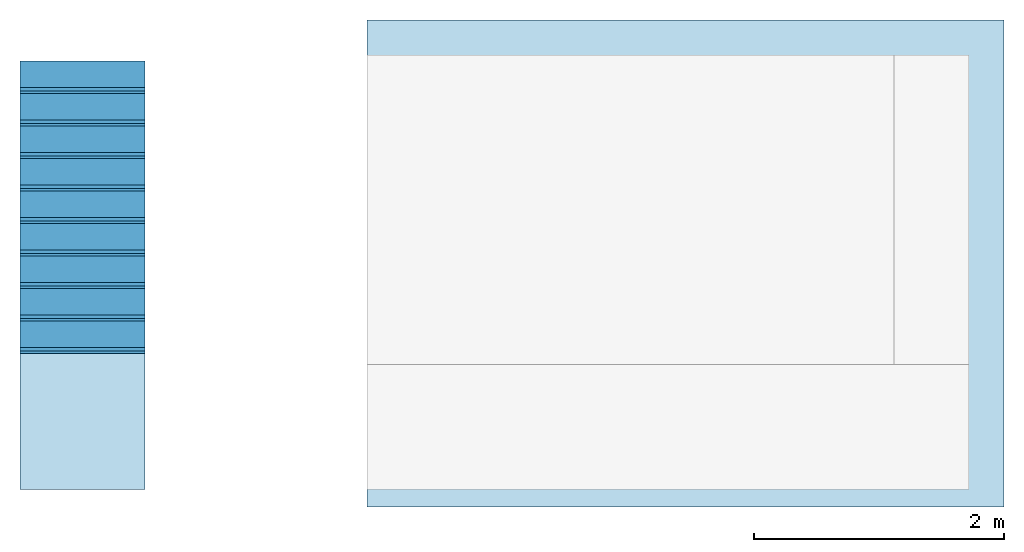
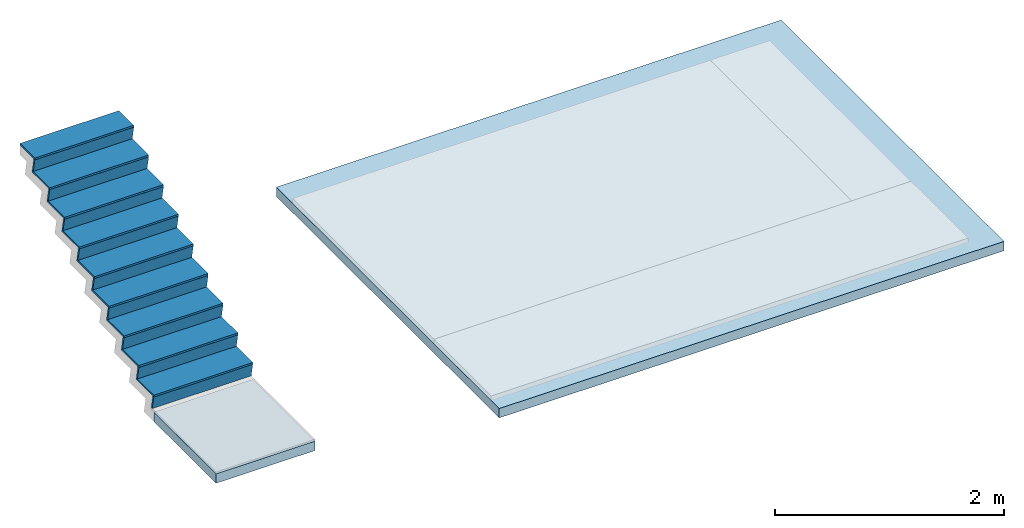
# One storey, part 1 of 4: 18 members, 2 slabs, 1 element without a shape of its own.
"""IFC2X3 building model written with IfcOpenShell, lengths in millimetres."""

from ifc_helpers import new_model, entity, si_unit, converted_unit, derived_unit, money_unit, direction, frame, origin_with_axes, place, context, subcontext, project, spatial, polyline, outline, extrude, faceted_brep, material, layer, layer_set, layer_usage, type_object, element, aggregate, save


model = new_model("IFC2X3")

# Units and contexts
model_context = context("Model", 3, precision=0.01, world=origin_with_axes(), true_north=direction((0.293984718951, 0.955810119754)))
body_context = subcontext(model_context, "Body", "Model", "MODEL_VIEW")
ifc_project = project(units=[si_unit("LENGTHUNIT", "METRE", prefix="MILLI"), si_unit("AREAUNIT", "SQUARE_METRE"), si_unit("VOLUMEUNIT", "CUBIC_METRE"), converted_unit("PLANEANGLEUNIT", "DEGREE", entity("IfcPlaneAngleMeasure", 0.0174532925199), si_unit("PLANEANGLEUNIT", "RADIAN"), dimensions=[0, 0, 0, 0, 0, 0, 0]), si_unit("SOLIDANGLEUNIT", "STERADIAN"), money_unit("USD"), converted_unit("TIMEUNIT", "Year", entity("IfcTimeMeasure", 31556926.0), si_unit("TIMEUNIT", "SECOND"), dimensions=[0, 0, 1, 0, 0, 0, 0]), si_unit("MASSUNIT", "GRAM", prefix="KILO"), si_unit("THERMODYNAMICTEMPERATUREUNIT", "DEGREE_CELSIUS"), si_unit("LUMINOUSINTENSITYUNIT", "LUMEN"), si_unit("ENERGYUNIT", "JOULE", prefix="MEGA"), derived_unit("THERMALCONDUCTANCEUNIT", [(si_unit("POWERUNIT", "WATT"), 1), (si_unit("LENGTHUNIT", "METRE"), -1), (si_unit("THERMODYNAMICTEMPERATUREUNIT", "KELVIN"), -1)]), derived_unit("SPECIFICHEATCAPACITYUNIT", [(si_unit("ENERGYUNIT", "JOULE"), 1), (si_unit("MASSUNIT", "GRAM", prefix="KILO"), -1), (si_unit("THERMODYNAMICTEMPERATUREUNIT", "KELVIN"), -1)]), derived_unit("MASSDENSITYUNIT", [(si_unit("MASSUNIT", "GRAM", prefix="KILO"), 1), (si_unit("VOLUMEUNIT", "CUBIC_METRE"), -1)])], contexts=[model_context])

# Site, building, storey
site_placement = place(None, origin_with_axes())
site = spatial("IfcSite", under=ifc_project, at=site_placement, Name="Local", CompositionType="ELEMENT")
building_placement = place(site_placement, origin_with_axes())
building = spatial("IfcBuilding", under=site, at=building_placement, Name="Construção", CompositionType="ELEMENT")
storey_placement = place(building_placement, frame((0.0, 0.0, 1300.0), z_axis=(0.0, 0.0, 1.0), x_axis=(1.0, 0.0, 0.0)))
storey = spatial("IfcBuildingStorey", under=building, at=storey_placement, Name="Pavimento Intermediário", CompositionType="ELEMENT", Elevation=1300.0)

# Stair, members
stair_placement = place(storey_placement, frame((13699.6450727, 3490.63219788, 210.0), z_axis=(0.0, 0.0, 1.0), x_axis=(1.0, 0.0, 0.0)))
stair = element("IfcStair", 1, at=stair_placement, inside=storey, Name="Escada", ShapeType="NOTDEFINED")
ifc_material_1 = material(Name="Concreto - Contra Piso")
member_type = type_object("IfcMemberType", Name="IfcMember", PredefinedType="NOTDEFINED")
member_1_placement = place(stair_placement, frame((-500.0, 1090.0, 138.888888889), z_axis=(0.0, 0.0, 1.0), x_axis=(1.0, 0.0, 0.0)))
member_1 = element("IfcMember", 2, at=member_1_placement, type_object=member_type, material=ifc_material_1, Name="RISER-227", context=body_context, shape_type="Brep", body=[
    faceted_brep([(500.0, 0.0, 0.0), (500.0, 20.3743338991, 0.0), (-500.0, 20.3743338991, 0.0), (-500.0, 0.0, 0.0), (500.0, 26.997265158, -138.888888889), (500.0, 47.3715990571, -138.888888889), (-500.0, 47.3715990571, -138.888888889), (-500.0, 26.997265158, -138.888888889)], [[[0, 1, 2, 3]], [[0, 4, 5, 1]], [[1, 5, 6, 2]], [[3, 2, 6, 7]], [[4, 0, 3, 7]], [[5, 4, 7, 6]]]),
])
member_2_placement = place(stair_placement, frame((-500.0, 1350.22054585, 297.777777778), z_axis=(0.0, 0.0, 1.0), x_axis=(1.0, 0.0, 0.0)))
member_2 = element("IfcMember", 3, at=member_2_placement, type_object=member_type, material=ifc_material_1, Name="RISER-228", context=body_context, shape_type="Brep", body=[
    faceted_brep([(500.0, 0.0, 0.0), (500.0, 20.3743338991, 0.0), (-500.0, 20.3743338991, 0.0), (-500.0, 0.0, 0.0), (500.0, 26.997265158, -138.888888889), (500.0, 47.3715990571, -138.888888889), (-500.0, 47.3715990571, -138.888888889), (-500.0, 26.997265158, -138.888888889)], [[[0, 1, 2, 3]], [[0, 4, 5, 1]], [[1, 5, 6, 2]], [[3, 2, 6, 7]], [[4, 0, 3, 7]], [[5, 4, 7, 6]]]),
])
member_3_placement = place(stair_placement, frame((-500.0, 1610.4410917, 456.666666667), z_axis=(0.0, 0.0, 1.0), x_axis=(1.0, 0.0, 0.0)))
member_3 = element("IfcMember", 4, at=member_3_placement, type_object=member_type, material=ifc_material_1, Name="RISER-229", context=body_context, shape_type="Brep", body=[
    faceted_brep([(500.0, 0.0, 0.0), (500.0, 20.3743338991, 0.0), (-500.0, 20.3743338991, 0.0), (-500.0, 0.0, 0.0), (500.0, 26.997265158, -138.888888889), (500.0, 47.3715990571, -138.888888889), (-500.0, 47.3715990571, -138.888888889), (-500.0, 26.997265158, -138.888888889)], [[[0, 1, 2, 3]], [[0, 4, 5, 1]], [[1, 5, 6, 2]], [[3, 2, 6, 7]], [[4, 0, 3, 7]], [[5, 4, 7, 6]]]),
])
member_4_placement = place(stair_placement, frame((-500.0, 1870.66163755, 615.555555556), z_axis=(0.0, 0.0, 1.0), x_axis=(1.0, 0.0, 0.0)))
member_4 = element("IfcMember", 5, at=member_4_placement, type_object=member_type, material=ifc_material_1, Name="RISER-230", context=body_context, shape_type="Brep", body=[
    faceted_brep([(500.0, 0.0, 0.0), (500.0, 20.3743338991, 0.0), (-500.0, 20.3743338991, 0.0), (-500.0, 0.0, 0.0), (500.0, 26.997265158, -138.888888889), (500.0, 47.3715990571, -138.888888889), (-500.0, 47.3715990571, -138.888888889), (-500.0, 26.997265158, -138.888888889)], [[[0, 1, 2, 3]], [[0, 4, 5, 1]], [[1, 5, 6, 2]], [[3, 2, 6, 7]], [[4, 0, 3, 7]], [[5, 4, 7, 6]]]),
])
member_5_placement = place(stair_placement, frame((-500.0, 2130.8821834, 774.444444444), z_axis=(0.0, 0.0, 1.0), x_axis=(1.0, 0.0, 0.0)))
member_5 = element("IfcMember", 6, at=member_5_placement, type_object=member_type, material=ifc_material_1, Name="RISER-231", context=body_context, shape_type="Brep", body=[
    faceted_brep([(500.0, 0.0, 0.0), (500.0, 20.3743338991, 0.0), (-500.0, 20.3743338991, 0.0), (-500.0, 0.0, 0.0), (500.0, 26.997265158, -138.888888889), (500.0, 47.3715990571, -138.888888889), (-500.0, 47.3715990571, -138.888888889), (-500.0, 26.997265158, -138.888888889)], [[[0, 1, 2, 3]], [[0, 4, 5, 1]], [[1, 5, 6, 2]], [[3, 2, 6, 7]], [[4, 0, 3, 7]], [[5, 4, 7, 6]]]),
])
member_6_placement = place(stair_placement, frame((-500.0, 2391.10272925, 933.333333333), z_axis=(0.0, 0.0, 1.0), x_axis=(1.0, 0.0, 0.0)))
member_6 = element("IfcMember", 7, at=member_6_placement, type_object=member_type, material=ifc_material_1, Name="RISER-232", context=body_context, shape_type="Brep", body=[
    faceted_brep([(500.0, 0.0, 0.0), (500.0, 20.3743338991, 0.0), (-500.0, 20.3743338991, 0.0), (-500.0, 0.0, 0.0), (500.0, 26.997265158, -138.888888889), (500.0, 47.3715990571, -138.888888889), (-500.0, 47.3715990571, -138.888888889), (-500.0, 26.997265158, -138.888888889)], [[[0, 1, 2, 3]], [[0, 4, 5, 1]], [[1, 5, 6, 2]], [[3, 2, 6, 7]], [[4, 0, 3, 7]], [[5, 4, 7, 6]]]),
])
member_7_placement = place(stair_placement, frame((-500.0, 2651.3232751, 1092.22222222), z_axis=(0.0, 0.0, 1.0), x_axis=(1.0, 0.0, 0.0)))
member_7 = element("IfcMember", 8, at=member_7_placement, type_object=member_type, material=ifc_material_1, Name="RISER-233", context=body_context, shape_type="Brep", body=[
    faceted_brep([(500.0, 0.0, 0.0), (500.0, 20.3743338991, 0.0), (-500.0, 20.3743338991, 0.0), (-500.0, 0.0, 0.0), (500.0, 26.997265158, -138.888888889), (500.0, 47.3715990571, -138.888888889), (-500.0, 47.3715990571, -138.888888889), (-500.0, 26.997265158, -138.888888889)], [[[0, 1, 2, 3]], [[0, 4, 5, 1]], [[1, 5, 6, 2]], [[3, 2, 6, 7]], [[4, 0, 3, 7]], [[5, 4, 7, 6]]]),
])
member_8_placement = place(stair_placement, frame((-500.0, 2911.54382095, 1251.11111111), z_axis=(0.0, 0.0, 1.0), x_axis=(1.0, 0.0, 0.0)))
member_8 = element("IfcMember", 9, at=member_8_placement, type_object=member_type, material=ifc_material_1, Name="RISER-234", context=body_context, shape_type="Brep", body=[
    faceted_brep([(500.0, 0.0, 0.0), (500.0, 20.3743338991, 0.0), (-500.0, 20.3743338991, 0.0), (-500.0, 0.0, 0.0), (500.0, 26.997265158, -138.888888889), (500.0, 47.3715990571, -138.888888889), (-500.0, 47.3715990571, -138.888888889), (-500.0, 26.997265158, -138.888888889)], [[[0, 1, 2, 3]], [[0, 4, 5, 1]], [[1, 5, 6, 2]], [[3, 2, 6, 7]], [[4, 0, 3, 7]], [[5, 4, 7, 6]]]),
])
member_9_placement = place(stair_placement, frame((-500.0, 3171.7643668, 1410.0), z_axis=(0.0, 0.0, 1.0), x_axis=(1.0, 0.0, 0.0)))
member_9 = element("IfcMember", 10, at=member_9_placement, type_object=member_type, material=ifc_material_1, Name="RISER-235", context=body_context, shape_type="Brep", body=[
    faceted_brep([(500.0, 0.0, 0.0), (500.0, 20.3743338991, 0.0), (-500.0, 20.3743338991, 0.0), (-500.0, 0.0, 0.0), (500.0, 26.997265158, -138.888888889), (500.0, 47.3715990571, -138.888888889), (-500.0, 47.3715990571, -138.888888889), (-500.0, 26.997265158, -138.888888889)], [[[0, 1, 2, 3]], [[0, 4, 5, 1]], [[1, 5, 6, 2]], [[3, 2, 6, 7]], [[4, 0, 3, 7]], [[5, 4, 7, 6]]]),
])
member_10_placement = place(stair_placement, frame((-500.0, 1090.0, 158.888888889), z_axis=(0.0, 0.0, 1.0), x_axis=(1.0, 0.0, 0.0)))
member_10 = element("IfcMember", 11, at=member_10_placement, type_object=member_type, material=ifc_material_1, Name="Piso Esc. - 196", context=body_context, shape_type="Brep", body=[
    faceted_brep([(-500.0, 311.479746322, -20.0), (0.0, 311.479746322, -20.0), (500.0, 311.479746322, -20.0), (500.0, 0.0, -20.0), (-500.0, 0.0, -20.0), (-500.0, 307.59214014, 0.0), (0.0, 307.59214014, 0.0), (500.0, 307.59214014, 0.0), (500.0, 0.0, 0.0), (-500.0, 0.0, 0.0)], [[[0, 1, 2, 3, 4]], [[1, 0, 5, 6, 7, 2]], [[7, 8, 3, 2]], [[8, 9, 4, 3]], [[5, 0, 4, 9]], [[6, 5, 9, 8, 7]]]),
])
member_11_placement = place(stair_placement, frame((-500.0, 1350.22054585, 317.777777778), z_axis=(0.0, 0.0, 1.0), x_axis=(1.0, 0.0, 0.0)))
member_11 = element("IfcMember", 12, at=member_11_placement, type_object=member_type, material=ifc_material_1, Name="Piso Esc. - 197", context=body_context, shape_type="Brep", body=[
    faceted_brep([(-500.0, 311.479746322, -20.0), (0.0, 311.479746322, -20.0), (500.0, 311.479746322, -20.0), (500.0, 0.0, -20.0), (-500.0, 0.0, -20.0), (-500.0, 307.59214014, 0.0), (0.0, 307.59214014, 0.0), (500.0, 307.59214014, 0.0), (500.0, 0.0, 0.0), (-500.0, 0.0, 0.0)], [[[0, 1, 2, 3, 4]], [[1, 0, 5, 6, 7, 2]], [[7, 8, 3, 2]], [[8, 9, 4, 3]], [[5, 0, 4, 9]], [[6, 5, 9, 8, 7]]]),
])
member_12_placement = place(stair_placement, frame((-500.0, 1610.4410917, 476.666666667), z_axis=(0.0, 0.0, 1.0), x_axis=(1.0, 0.0, 0.0)))
member_12 = element("IfcMember", 13, at=member_12_placement, type_object=member_type, material=ifc_material_1, Name="Piso Esc. - 198", context=body_context, shape_type="Brep", body=[
    faceted_brep([(-500.0, 311.479746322, -20.0), (0.0, 311.479746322, -20.0), (500.0, 311.479746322, -20.0), (500.0, 0.0, -20.0), (-500.0, 0.0, -20.0), (-500.0, 307.59214014, 0.0), (0.0, 307.59214014, 0.0), (500.0, 307.59214014, 0.0), (500.0, 0.0, 0.0), (-500.0, 0.0, 0.0)], [[[0, 1, 2, 3, 4]], [[1, 0, 5, 6, 7, 2]], [[7, 8, 3, 2]], [[8, 9, 4, 3]], [[5, 0, 4, 9]], [[6, 5, 9, 8, 7]]]),
])
member_13_placement = place(stair_placement, frame((-500.0, 1870.66163755, 635.555555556), z_axis=(0.0, 0.0, 1.0), x_axis=(1.0, 0.0, 0.0)))
member_13 = element("IfcMember", 14, at=member_13_placement, type_object=member_type, material=ifc_material_1, Name="Piso Esc. - 199", context=body_context, shape_type="Brep", body=[
    faceted_brep([(-500.0, 311.479746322, -20.0), (0.0, 311.479746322, -20.0), (500.0, 311.479746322, -20.0), (500.0, 0.0, -20.0), (-500.0, 0.0, -20.0), (-500.0, 307.59214014, 0.0), (0.0, 307.59214014, 0.0), (500.0, 307.59214014, 0.0), (500.0, 0.0, 0.0), (-500.0, 0.0, 0.0)], [[[0, 1, 2, 3, 4]], [[1, 0, 5, 6, 7, 2]], [[7, 8, 3, 2]], [[8, 9, 4, 3]], [[5, 0, 4, 9]], [[6, 5, 9, 8, 7]]]),
])
member_14_placement = place(stair_placement, frame((-500.0, 2130.8821834, 794.444444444), z_axis=(0.0, 0.0, 1.0), x_axis=(1.0, 0.0, 0.0)))
member_14 = element("IfcMember", 15, at=member_14_placement, type_object=member_type, material=ifc_material_1, Name="Piso Esc. - 200", context=body_context, shape_type="Brep", body=[
    faceted_brep([(-500.0, 311.479746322, -20.0), (0.0, 311.479746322, -20.0), (500.0, 311.479746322, -20.0), (500.0, 0.0, -20.0), (-500.0, 0.0, -20.0), (-500.0, 307.59214014, 0.0), (0.0, 307.59214014, 0.0), (500.0, 307.59214014, 0.0), (500.0, 0.0, 0.0), (-500.0, 0.0, 0.0)], [[[0, 1, 2, 3, 4]], [[1, 0, 5, 6, 7, 2]], [[7, 8, 3, 2]], [[8, 9, 4, 3]], [[5, 0, 4, 9]], [[6, 5, 9, 8, 7]]]),
])
member_15_placement = place(stair_placement, frame((-500.0, 2391.10272925, 953.333333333), z_axis=(0.0, 0.0, 1.0), x_axis=(1.0, 0.0, 0.0)))
member_15 = element("IfcMember", 16, at=member_15_placement, type_object=member_type, material=ifc_material_1, Name="Piso Esc. - 201", context=body_context, shape_type="Brep", body=[
    faceted_brep([(-500.0, 311.479746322, -20.0), (0.0, 311.479746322, -20.0), (500.0, 311.479746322, -20.0), (500.0, 0.0, -20.0), (-500.0, 0.0, -20.0), (-500.0, 307.59214014, 0.0), (0.0, 307.59214014, 0.0), (500.0, 307.59214014, 0.0), (500.0, 0.0, 0.0), (-500.0, 0.0, 0.0)], [[[0, 1, 2, 3, 4]], [[1, 0, 5, 6, 7, 2]], [[7, 8, 3, 2]], [[8, 9, 4, 3]], [[5, 0, 4, 9]], [[6, 5, 9, 8, 7]]]),
])
member_16_placement = place(stair_placement, frame((-500.0, 2651.3232751, 1112.22222222), z_axis=(0.0, 0.0, 1.0), x_axis=(1.0, 0.0, 0.0)))
member_16 = element("IfcMember", 17, at=member_16_placement, type_object=member_type, material=ifc_material_1, Name="Piso Esc. - 202", context=body_context, shape_type="Brep", body=[
    faceted_brep([(-500.0, 311.479746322, -20.0), (0.0, 311.479746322, -20.0), (500.0, 311.479746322, -20.0), (500.0, 0.0, -20.0), (-500.0, 0.0, -20.0), (-500.0, 307.59214014, 0.0), (0.0, 307.59214014, 0.0), (500.0, 307.59214014, 0.0), (500.0, 0.0, 0.0), (-500.0, 0.0, 0.0)], [[[0, 1, 2, 3, 4]], [[1, 0, 5, 6, 7, 2]], [[7, 8, 3, 2]], [[8, 9, 4, 3]], [[5, 0, 4, 9]], [[6, 5, 9, 8, 7]]]),
])
member_17_placement = place(stair_placement, frame((-500.0, 2911.54382095, 1271.11111111), z_axis=(0.0, 0.0, 1.0), x_axis=(1.0, 0.0, 0.0)))
member_17 = element("IfcMember", 18, at=member_17_placement, type_object=member_type, material=ifc_material_1, Name="Piso Esc. - 203", context=body_context, shape_type="Brep", body=[
    faceted_brep([(-500.0, 311.479746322, -20.0), (0.0, 311.479746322, -20.0), (500.0, 311.479746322, -20.0), (500.0, 0.0, -20.0), (-500.0, 0.0, -20.0), (-500.0, 307.59214014, 0.0), (0.0, 307.59214014, 0.0), (500.0, 307.59214014, 0.0), (500.0, 0.0, 0.0), (-500.0, 0.0, 0.0)], [[[0, 1, 2, 3, 4]], [[1, 0, 5, 6, 7, 2]], [[7, 8, 3, 2]], [[8, 9, 4, 3]], [[5, 0, 4, 9]], [[6, 5, 9, 8, 7]]]),
])
member_18_placement = place(stair_placement, frame((-500.0, 3171.7643668, 1430.0), z_axis=(0.0, 0.0, 1.0), x_axis=(1.0, 0.0, 0.0)))
member_18 = element("IfcMember", 19, at=member_18_placement, type_object=member_type, material=ifc_material_1, Name="Piso Esc. - 204", context=body_context, shape_type="Brep", body=[
    faceted_brep([(-500.0, 0.0, -20.0), (500.0, 0.0, -20.0), (500.0, 0.0, 0.0), (-500.0, 0.0, 0.0), (-500.0, 260.220545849, -20.0), (500.0, 260.220545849, -20.0), (500.0, 260.220545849, 0.0), (-500.0, 260.220545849, 0.0)], [[[0, 1, 2, 3]], [[0, 4, 5, 1]], [[1, 5, 6, 2]], [[3, 2, 6, 7]], [[4, 0, 3, 7]], [[5, 4, 7, 6]]]),
])

# Slab
ifc_material_2 = material(Name="Concreto Armado - Estrutural")
ifc_layer = layer(ifc_material_2, 100.0, ventilated="UNKNOWN")
ifc_layer_set = layer_set([ifc_layer], Name="Concreto Armado - Estrutural 100")
ifc_layer_usage = layer_usage(ifc_layer_set, "AXIS3", "NEGATIVE", 100.0)
slab_type_1 = type_object("IfcSlabType", Name="Concreto Armado - Estrutural 100", PredefinedType="FLOOR")
slab_1_placement = place(storey_placement, frame((15479.6450727, 3350.63219788, 0.0), z_axis=(0.0, 0.0, 1.0), x_axis=(1.0, 0.0, 0.0)))
element("IfcSlab", 20, at=slab_1_placement, inside=storey, type_object=slab_type_1, material=ifc_layer_usage, Name="Laje-05", PredefinedType="FLOOR", context=body_context, shape_type="SweptSolid", body=[
    extrude(outline(polyline([(0.0, 0.0), (5100.0, 0.0), (5100.0, 3900.0), (0.0, 3900.0), (0.0, 0.0)])), frame((0.0, 0.0, -100.0), z_axis=(0.0, 0.0, 1.0), x_axis=(1.0, 0.0, 0.0)), (0.0, 0.0, 1.0), 100.0),
])

slab_type_2 = type_object("IfcSlabType", Name="IfcSlab", PredefinedType="LANDING")
slab_2_placement = place(stair_placement, origin_with_axes())
slab_2 = element("IfcSlab", 21, at=slab_2_placement, type_object=slab_type_2, material=ifc_material_2, Name="Patamar - 011", PredefinedType="LANDING", context=body_context, shape_type="Brep", body=[
    faceted_brep([(-4.59267057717e-06, 1090.0, -120.0), (-4.59267057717e-06, 1090.0, -20.0), (-4.59267057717e-06, 0.0, -20.0), (-4.59267057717e-06, 0.0, -120.0), (-1000.0, 1090.0, -20.0), (-1000.0, 1090.0, -120.0), (-1000.0, 0.0, -20.0), (-1000.0, 0.0, -120.0)], [[[0, 1, 2, 3]], [[4, 1, 0, 5]], [[1, 4, 6, 2]], [[6, 7, 3, 2]], [[5, 0, 3, 7]], [[4, 5, 7, 6]]]),
])

aggregate(stair, [slab_2, member_1, member_2, member_3, member_4, member_5, member_6, member_7, member_8, member_9, member_10, member_11, member_12, member_13, member_14, member_15, member_16, member_17, member_18])

save(model, "model.ifc")
